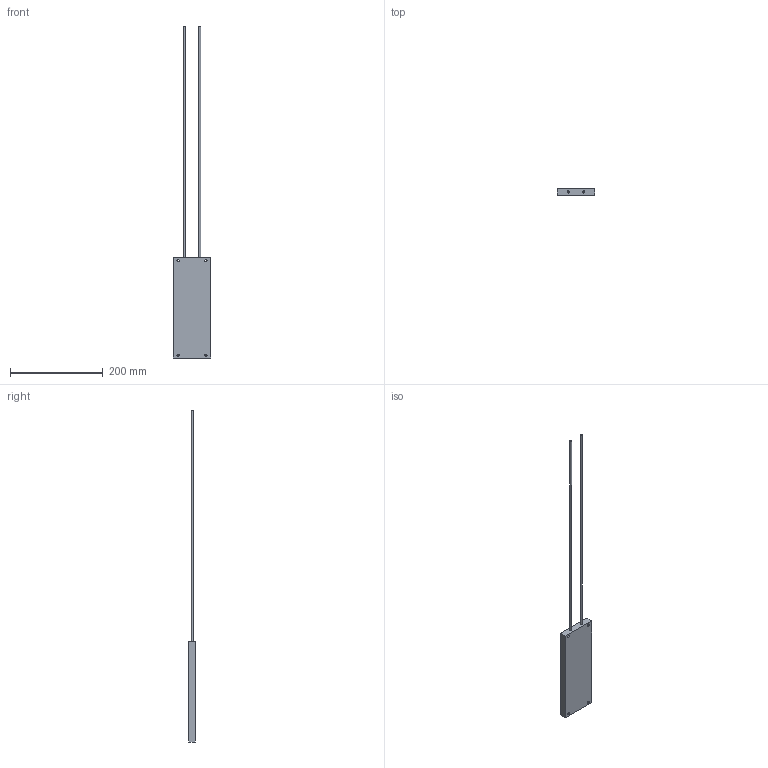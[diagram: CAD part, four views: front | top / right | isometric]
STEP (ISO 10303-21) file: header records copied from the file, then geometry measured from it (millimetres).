
FILE_DESCRIPTION(/* description */ (''),/* implementation_level */ '2;1');
FILE_NAME(/* name */ 'C:\_Vault\Dati\CATALOGO\RFD\RFD300.stp',/* time_stamp */ '2014-03-24T16:41:13+01:00',/* author */ ('stefano'),/* organization */ (''),/* preprocessor_version */ 'ST-DEVELOPER v15.2',/* originating_system */ 'Autodesk Inventor 2014',/* authorisation */ '');
FILE_SCHEMA (('AUTOMOTIVE_DESIGN { 1 0 10303 214 3 1 1 }'));
Length unit declared in the file: millimetre
Products named in the file (1): RFD300
Bounding box: 80 x 15 x 716.1 mm (x, y, z)
Volume: 270588.9 mm3; surface area: 56793 mm2
Topology: 1 solids, 1 shells, 18 faces, 40 edges, 28 vertices
Faces by surface type: plane 10, cylinder 8
Full cylindrical faces by diameter (mm): 2 x2, 4 x2, 5 x4
Entity records: 526 total; most frequent: DIRECTION 82, CARTESIAN_POINT 71, ORIENTED_EDGE 56, EDGE_LOOP 38, AXIS2_PLACEMENT_3D 35, EDGE_CURVE 28, FACE_BOUND 25, VERTEX_POINT 24
